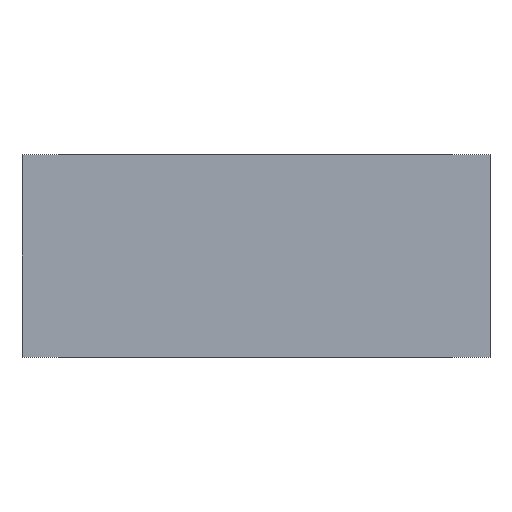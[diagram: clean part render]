
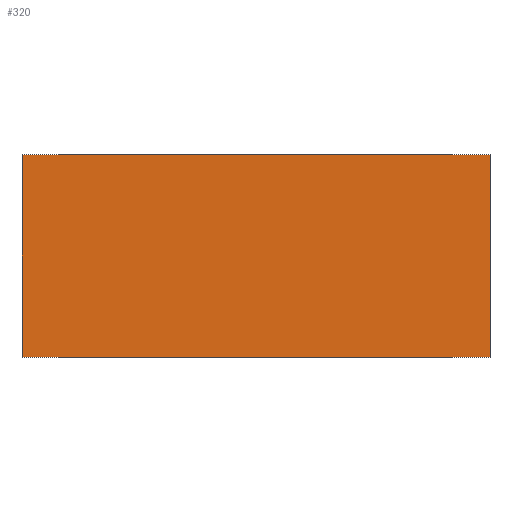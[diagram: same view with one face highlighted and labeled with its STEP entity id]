
A CAD part, front view. The second image highlights one B-rep face of the part: STEP entity #320.
In plain terms, the highlighted planar face has unit normal (0, -1, 0).
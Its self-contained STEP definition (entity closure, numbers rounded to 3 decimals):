
#16 = EDGE_CURVE ( 'NONE', #555, #499, #214, .T. ) ;
#41 = EDGE_CURVE ( 'NONE', #547, #555, #173, .T. ) ;
#43 = EDGE_CURVE ( 'NONE', #566, #499, #169, .T. ) ;
#59 = AXIS2_PLACEMENT_3D ( 'NONE', #393, #386, #384 ) ;
#71 = EDGE_CURVE ( 'NONE', #547, #566, #133, .T. ) ;
#115 = FACE_OUTER_BOUND ( 'NONE', #238, .T. ) ;
#132 = VECTOR ( 'NONE', #460, 1000. ) ;
#133 = LINE ( 'NONE', #461, #132 ) ;
#168 = VECTOR ( 'NONE', #515, 1000. ) ;
#169 = LINE ( 'NONE', #517, #168 ) ;
#172 = VECTOR ( 'NONE', #521, 1000. ) ;
#173 = LINE ( 'NONE', #522, #172 ) ;
#205 = VECTOR ( 'NONE', #568, 1000. ) ;
#214 = LINE ( 'NONE', #335, #205 ) ;
#238 = EDGE_LOOP ( 'NONE', ( #284, #285, #286, #287 ) ) ;
#284 = ORIENTED_EDGE ( 'NONE', *, *, #43, .T. ) ;
#285 = ORIENTED_EDGE ( 'NONE', *, *, #16, .F. ) ;
#286 = ORIENTED_EDGE ( 'NONE', *, *, #41, .F. ) ;
#287 = ORIENTED_EDGE ( 'NONE', *, *, #71, .T. ) ;
#320 = ADVANCED_FACE ( 'NONE', ( #115 ), #397, .F. ) ;
#335 = CARTESIAN_POINT ( 'NONE',  ( 75., 0., 65. ) ) ;
#351 = CARTESIAN_POINT ( 'NONE',  ( -75., 0., 0. ) ) ;
#354 = CARTESIAN_POINT ( 'NONE',  ( 75., 0., 65. ) ) ;
#357 = CARTESIAN_POINT ( 'NONE',  ( -75., 0., 65. ) ) ;
#372 = CARTESIAN_POINT ( 'NONE',  ( 75., 0., 0. ) ) ;
#384 = DIRECTION ( 'NONE',  ( -1., 0., 0. ) ) ;
#386 = DIRECTION ( 'NONE',  ( 0., 1., 0. ) ) ;
#393 = CARTESIAN_POINT ( 'NONE',  ( -75., 0., 65. ) ) ;
#397 = PLANE ( 'NONE',  #59 ) ;
#460 = DIRECTION ( 'NONE',  ( 0., 0., -1. ) ) ;
#461 = CARTESIAN_POINT ( 'NONE',  ( -75., 0., 65. ) ) ;
#499 = VERTEX_POINT ( 'NONE', #372 ) ;
#515 = DIRECTION ( 'NONE',  ( 1., 0., 0. ) ) ;
#517 = CARTESIAN_POINT ( 'NONE',  ( -75., 0., 0. ) ) ;
#521 = DIRECTION ( 'NONE',  ( 1., 0., 0. ) ) ;
#522 = CARTESIAN_POINT ( 'NONE',  ( -75., 0., 65. ) ) ;
#547 = VERTEX_POINT ( 'NONE', #357 ) ;
#555 = VERTEX_POINT ( 'NONE', #354 ) ;
#566 = VERTEX_POINT ( 'NONE', #351 ) ;
#568 = DIRECTION ( 'NONE',  ( 0., 0., -1. ) ) ;
